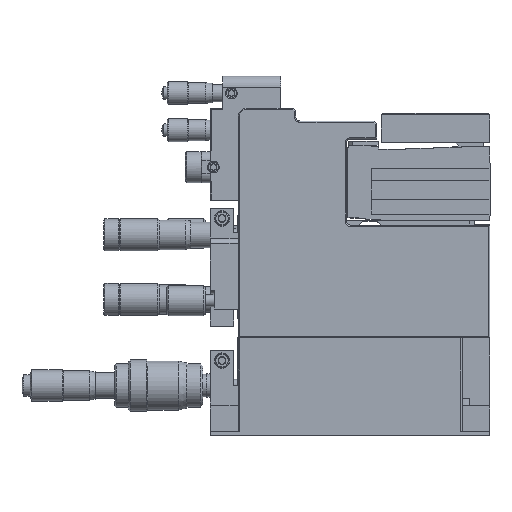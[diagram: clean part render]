
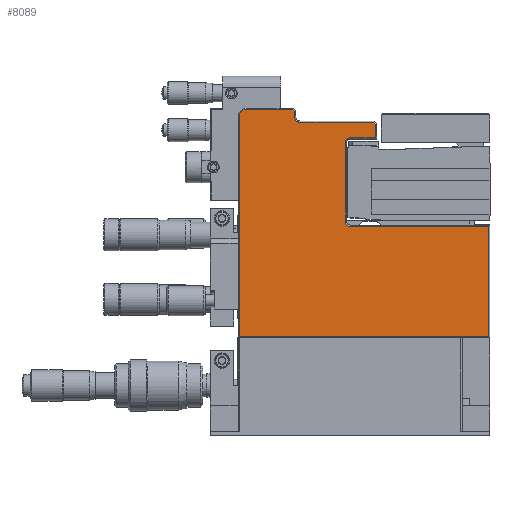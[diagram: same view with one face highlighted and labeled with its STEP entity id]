
A CAD part, top view. The second image highlights one B-rep face of the part: STEP entity #8089.
In plain terms, the highlighted planar face has unit normal (0, 0, 1).
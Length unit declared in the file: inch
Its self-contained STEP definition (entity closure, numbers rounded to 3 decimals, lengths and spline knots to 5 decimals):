
#2964=EDGE_CURVE('P5-D-MMMM-N-2-HN-I[2]',#9650,#9651,#9652,.T.);
#3751=EDGE_CURVE('P5-D-MMMM-N-2-HN-I[2]',#10920,#10921,#10922,.T.);
#4125=EDGE_CURVE('P5-D-MMMM-N-2-HN-I[2]',#11499,#10920,#11500,.T.);
#4235=EDGE_CURVE('P5-D-MMMM-N-2-HN-I[2]',#11663,#11664,#11665,.T.);
#4814=EDGE_CURVE('P5-D-MMMM-N-2-HN-I[2]',#10176,#12539,#12540,.T.);
#5510=EDGE_CURVE('P5-D-MMMM-N-2-HN-I[2]',#10176,#13516,#13517,.T.);
#5562=EDGE_CURVE('P5-D-MMMM-N-2-HN-I[2]',#12539,#11105,#13588,.F.);
#6408=EDGE_CURVE('P5-D-MMMM-N-2-HN-I[2]',#9883,#11458,#14709,.T.);
#6581=EDGE_CURVE('P5-D-MMMM-N-2-HN-I[2]',#10921,#9883,#14941,.T.);
#6648=EDGE_CURVE('P5-D-MMMM-N-2-HN-I[2]',#11621,#11499,#15047,.T.);
#7268=EDGE_CURVE('P5-D-MMMM-N-2-HN-I[2]',#14007,#9650,#15832,.T.);
#7515=EDGE_CURVE('P5-D-MMMM-N-2-HN-I[2]',#11664,#13962,#16147,.T.);
#8031=EDGE_CURVE('P5-D-MMMM-N-2-HN-I[2]',#9651,#11621,#16795,.T.);
#8089=ADVANCED_FACE('P5-D-MMMM-N-2-HN-I[2]',(#16869),#16870,.T.);
#8519=EDGE_CURVE('P5-D-MMMM-N-2-HN-I[2]',#11105,#14007,#17392,.F.);
#8630=EDGE_CURVE('P5-D-MMMM-N-2-HN-I[2]',#13962,#13516,#17530,.T.);
#9090=EDGE_CURVE('P5-D-MMMM-N-2-HN-I[2]',#11458,#11663,#18087,.T.);
#9650=VERTEX_POINT('',#18785);
#9651=VERTEX_POINT('',#18786);
#9652=LINE('',#18787,#18788);
#9883=VERTEX_POINT('',#19120);
#10176=VERTEX_POINT('',#19553);
#10920=VERTEX_POINT('',#20668);
#10921=VERTEX_POINT('',#20669);
#10922=LINE('',#20670,#20671);
#11105=VERTEX_POINT('',#20927);
#11458=VERTEX_POINT('',#21455);
#11499=VERTEX_POINT('',#21521);
#11500=LINE('',#21522,#21523);
#11621=VERTEX_POINT('',#21693);
#11663=VERTEX_POINT('',#21766);
#11664=VERTEX_POINT('',#21767);
#11665=CIRCLE('',#21768,0.085);
#12539=VERTEX_POINT('',#23111);
#12540=LINE('',#23112,#23113);
#13516=VERTEX_POINT('',#24637);
#13517=LINE('',#24638,#24639);
#13588=CIRCLE('',#24757,0.11);
#13962=VERTEX_POINT('',#25369);
#14007=VERTEX_POINT('',#25436);
#14709=CIRCLE('',#26520,0.085);
#14941=LINE('',#26892,#26893);
#15047=LINE('',#27059,#27060);
#15832=LINE('',#28294,#28295);
#16147=LINE('',#28764,#28765);
#16795=CIRCLE('',#29817,0.085);
#16869=FACE_OUTER_BOUND('',#29924,.T.);
#16870=PLANE('',#29925);
#17392=LINE('',#30751,#30752);
#17530=LINE('',#30973,#30974);
#18087=LINE('',#31888,#31889);
#18785=CARTESIAN_POINT('',(-4.145,-0.46828,0.875));
#18786=CARTESIAN_POINT('',(-4.145,-0.56,0.875));
#18787=CARTESIAN_POINT('',(-4.145,-1.74875,0.875));
#18788=VECTOR('',#32762,1.0);
#19120=CARTESIAN_POINT('',(-3.245,-0.895,0.875));
#19553=CARTESIAN_POINT('',(-5.03,-4.1,0.875));
#20668=CARTESIAN_POINT('',(-2.845,-0.67328,0.875));
#20669=CARTESIAN_POINT('',(-2.845,-0.895,0.875));
#20670=CARTESIAN_POINT('',(-2.845,-1.875,0.875));
#20671=VECTOR('',#34023,1.0);
#20927=CARTESIAN_POINT('',(-4.92,-0.44,0.875));
#21455=CARTESIAN_POINT('',(-3.33,-0.98,0.875));
#21521=CARTESIAN_POINT('',(-2.87328,-0.645,0.875));
#21522=CARTESIAN_POINT('',(-2.31539,-1.20289,0.875));
#21523=VECTOR('',#34627,1.0);
#21693=CARTESIAN_POINT('',(-4.06,-0.645,0.875));
#21766=CARTESIAN_POINT('',(-3.33,-2.235,0.875));
#21767=CARTESIAN_POINT('',(-3.245,-2.32,0.875));
#21768=AXIS2_PLACEMENT_3D('',#34815,#34816,#34817);
#23111=CARTESIAN_POINT('',(-5.03,-0.55,0.875));
#23112=CARTESIAN_POINT('',(-5.03,-1.73232,0.875));
#23113=VECTOR('',#35651,1.0);
#24637=CARTESIAN_POINT('',(-1.02,-4.1,0.875));
#24638=CARTESIAN_POINT('',(-3.025,-4.1,0.875));
#24639=VECTOR('',#36806,1.0);
#24757=AXIS2_PLACEMENT_3D('',#36891,#36892,#36893);
#25369=CARTESIAN_POINT('',(-1.02,-2.32,0.875));
#25436=CARTESIAN_POINT('',(-4.17328,-0.44,0.875));
#26520=AXIS2_PLACEMENT_3D('',#38140,#38141,#38142);
#26892=CARTESIAN_POINT('',(-3.02375,-0.895,0.875));
#26893=VECTOR('',#38448,1.0);
#27059=CARTESIAN_POINT('',(-3.225,-0.645,0.875));
#27060=VECTOR('',#38561,1.0);
#28294=CARTESIAN_POINT('',(-3.23914,-1.37414,0.875));
#28295=VECTOR('',#39551,1.0);
#28764=CARTESIAN_POINT('',(-2.07125,-2.32,0.875));
#28765=VECTOR('',#39978,1.0);
#29817=AXIS2_PLACEMENT_3D('',#40838,#40839,#40840);
#29924=EDGE_LOOP('',(#40946,#40947,#40948,#40949,#40950,#40951,#40952,#40953,#40954,#40955,#40956,#40957,#40958,#40959,#40960,#40961));
#29925=AXIS2_PLACEMENT_3D('',#40962,#40963,#40964);
#30751=CARTESIAN_POINT('',(-3.025,-0.44,0.875));
#30752=VECTOR('',#41640,1.0);
#30973=CARTESIAN_POINT('',(-1.02,-3.485,0.875));
#30974=VECTOR('',#41820,1.0);
#31888=CARTESIAN_POINT('',(-3.33,-2.29125,0.875));
#31889=VECTOR('',#42551,1.0);
#32762=DIRECTION('',(0.0,-1.0,-0.0));
#34023=DIRECTION('',(0.0,-1.0,0.0));
#34627=DIRECTION('',(0.707,-0.707,0.0));
#34815=CARTESIAN_POINT('',(-3.245,-2.235,0.875));
#34816=DIRECTION('',(0.0,0.0,1.0));
#34817=DIRECTION('',(-0.707,-0.707,0.0));
#35651=DIRECTION('',(0.0,1.0,0.0));
#36806=DIRECTION('',(1.0,0.0,0.0));
#36891=CARTESIAN_POINT('',(-4.92,-0.55,0.875));
#36892=DIRECTION('',(0.0,0.0,1.0));
#36893=DIRECTION('',(-0.707,0.707,0.0));
#38140=CARTESIAN_POINT('',(-3.245,-0.98,0.875));
#38141=DIRECTION('',(0.0,0.0,1.0));
#38142=DIRECTION('',(-0.707,0.707,0.0));
#38448=DIRECTION('',(-1.0,0.0,0.0));
#38561=DIRECTION('',(1.0,0.0,0.0));
#39551=DIRECTION('',(0.707,-0.707,0.0));
#39978=DIRECTION('',(1.0,0.0,0.0));
#40838=CARTESIAN_POINT('',(-4.06,-0.56,0.875));
#40839=DIRECTION('',(0.0,0.0,1.0));
#40840=DIRECTION('',(-0.707,-0.707,0.0));
#40946=ORIENTED_EDGE('',*,*,#8519,.F.);
#40947=ORIENTED_EDGE('',*,*,#5562,.F.);
#40948=ORIENTED_EDGE('',*,*,#4814,.F.);
#40949=ORIENTED_EDGE('',*,*,#5510,.T.);
#40950=ORIENTED_EDGE('',*,*,#8630,.F.);
#40951=ORIENTED_EDGE('',*,*,#7515,.F.);
#40952=ORIENTED_EDGE('',*,*,#4235,.F.);
#40953=ORIENTED_EDGE('',*,*,#9090,.F.);
#40954=ORIENTED_EDGE('',*,*,#6408,.F.);
#40955=ORIENTED_EDGE('',*,*,#6581,.F.);
#40956=ORIENTED_EDGE('',*,*,#3751,.F.);
#40957=ORIENTED_EDGE('',*,*,#4125,.F.);
#40958=ORIENTED_EDGE('',*,*,#6648,.F.);
#40959=ORIENTED_EDGE('',*,*,#8031,.F.);
#40960=ORIENTED_EDGE('',*,*,#2964,.F.);
#40961=ORIENTED_EDGE('',*,*,#7268,.F.);
#40962=CARTESIAN_POINT('',(-3.025,-3.0,0.875));
#40963=DIRECTION('',(0.0,0.0,1.0));
#40964=DIRECTION('',(0.0,-1.0,0.0));
#41640=DIRECTION('',(-1.0,0.0,0.0));
#41820=DIRECTION('',(0.0,-1.0,-0.0));
#42551=DIRECTION('',(0.0,-1.0,0.0));
